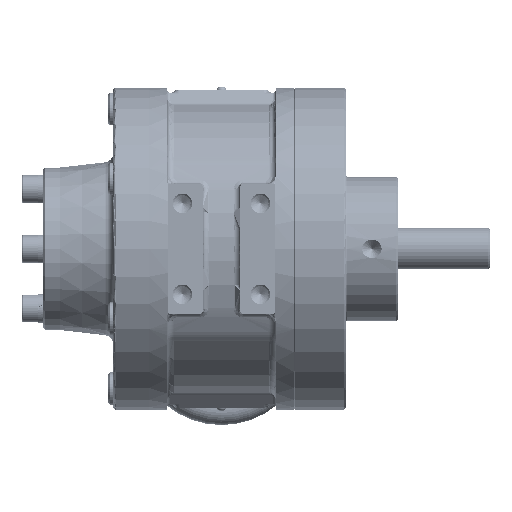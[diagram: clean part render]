
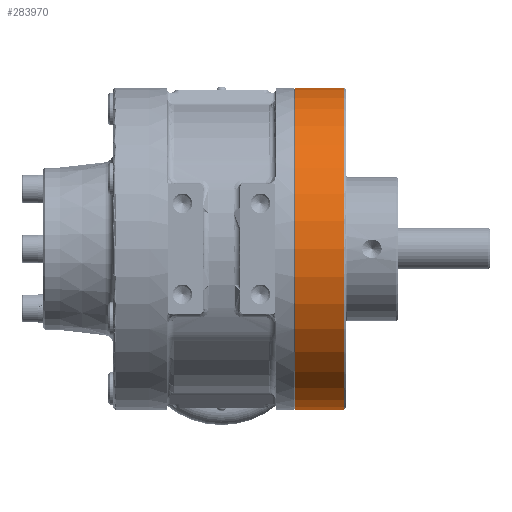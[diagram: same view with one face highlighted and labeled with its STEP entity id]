
A CAD part, front view. The second image highlights one B-rep face of the part: STEP entity #283970.
In plain terms, the highlighted cylindrical face has radius 49.5 mm (diameter 99 mm), a partial arc.
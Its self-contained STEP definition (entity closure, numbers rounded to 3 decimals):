
#2247 = AXIS2_PLACEMENT_3D ( 'NONE', #154240, #110054, #132617 ) ;
#22676 = EDGE_CURVE ( 'NONE', #111213, #35916, #165858, .T. ) ;
#24068 = CARTESIAN_POINT ( 'NONE',  ( 37.78, 0., -49.5 ) ) ;
#27740 = VERTEX_POINT ( 'NONE', #121659 ) ;
#35916 = VERTEX_POINT ( 'NONE', #55397 ) ;
#37419 = VECTOR ( 'NONE', #158697, 1000. ) ;
#46999 = DIRECTION ( 'NONE',  ( 1., 0., 0. ) ) ;
#55397 = CARTESIAN_POINT ( 'NONE',  ( 37.78, 0., 49.5 ) ) ;
#59247 = EDGE_CURVE ( 'NONE', #228157, #27740, #75996, .T. ) ;
#65379 = CARTESIAN_POINT ( 'NONE',  ( -49.037, 0., 49.5 ) ) ;
#73355 = LINE ( 'NONE', #247327, #221148 ) ;
#75996 = CIRCLE ( 'NONE', #85665, 49.5 ) ;
#81364 = EDGE_CURVE ( 'NONE', #35916, #228157, #125444, .T. ) ;
#82422 = ORIENTED_EDGE ( 'NONE', *, *, #22676, .T. ) ;
#85665 = AXIS2_PLACEMENT_3D ( 'NONE', #133548, #46999, #111928 ) ;
#90958 = DIRECTION ( 'NONE',  ( -1., 0., 0. ) ) ;
#110054 = DIRECTION ( 'NONE',  ( -1., 0., 0. ) ) ;
#110641 = ORIENTED_EDGE ( 'NONE', *, *, #81364, .T. ) ;
#111213 = VERTEX_POINT ( 'NONE', #24068 ) ;
#111928 = DIRECTION ( 'NONE',  ( 0., 0., 1. ) ) ;
#112072 = ORIENTED_EDGE ( 'NONE', *, *, #142623, .F. ) ;
#121659 = CARTESIAN_POINT ( 'NONE',  ( 22.78, 0., -49.5 ) ) ;
#125444 = LINE ( 'NONE', #65379, #37419 ) ;
#131301 = DIRECTION ( 'NONE',  ( -1., 0., 0. ) ) ;
#132617 = DIRECTION ( 'NONE',  ( 0., 0., -1. ) ) ;
#133548 = CARTESIAN_POINT ( 'NONE',  ( 22.78, 0., 0. ) ) ;
#142623 = EDGE_CURVE ( 'NONE', #111213, #27740, #73355, .T. ) ;
#154240 = CARTESIAN_POINT ( 'NONE',  ( 37.78, 0., 0. ) ) ;
#158697 = DIRECTION ( 'NONE',  ( -1., 0., 0. ) ) ;
#161475 = FACE_OUTER_BOUND ( 'NONE', #255811, .T. ) ;
#165858 = CIRCLE ( 'NONE', #2247, 49.5 ) ;
#217867 = CARTESIAN_POINT ( 'NONE',  ( -49.037, 0., 0. ) ) ;
#221148 = VECTOR ( 'NONE', #90958, 1000. ) ;
#228157 = VERTEX_POINT ( 'NONE', #253076 ) ;
#230661 = ORIENTED_EDGE ( 'NONE', *, *, #59247, .T. ) ;
#242475 = DIRECTION ( 'NONE',  ( 0., 0., -1. ) ) ;
#247327 = CARTESIAN_POINT ( 'NONE',  ( -49.037, 0., -49.5 ) ) ;
#253076 = CARTESIAN_POINT ( 'NONE',  ( 22.78, 0., 49.5 ) ) ;
#255811 = EDGE_LOOP ( 'NONE', ( #82422, #110641, #230661, #112072 ) ) ;
#267080 = CYLINDRICAL_SURFACE ( 'NONE', #272411, 49.5 ) ;
#272411 = AXIS2_PLACEMENT_3D ( 'NONE', #217867, #131301, #242475 ) ;
#283970 = ADVANCED_FACE ( 'NONE', ( #161475 ), #267080, .T. ) ;
